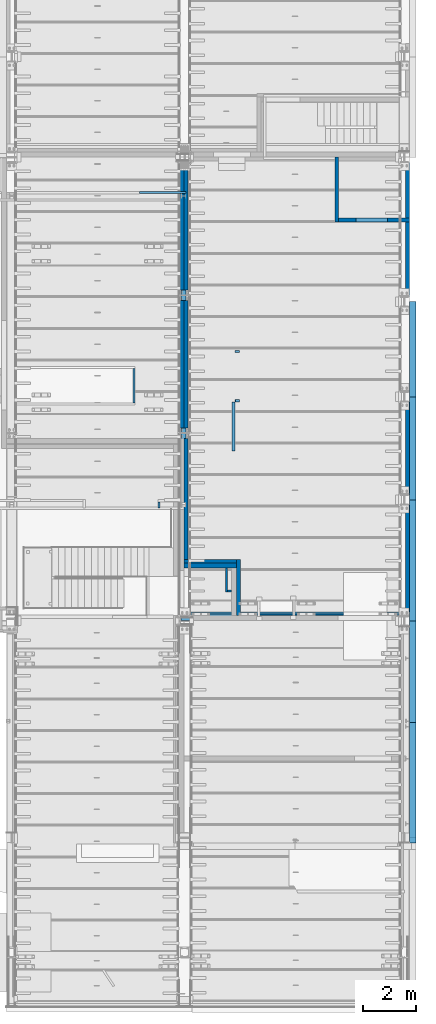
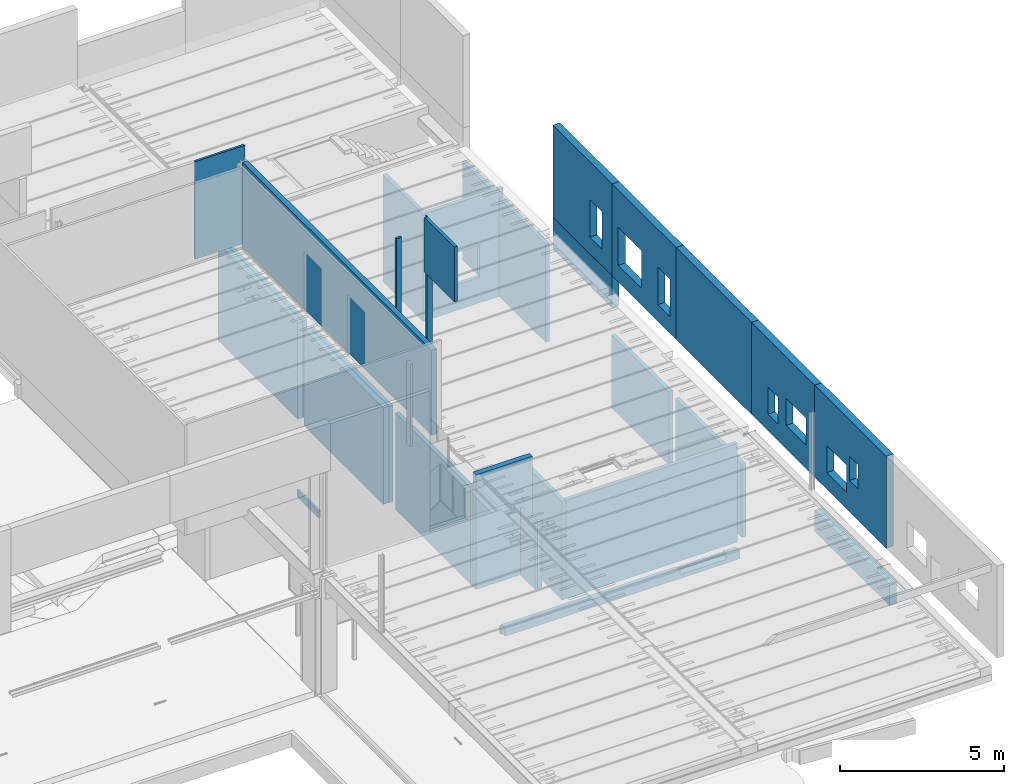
# One storey, part 69 of 230: 33 walls, 8 openings.
"""IFC4X3_ADD2 building model written with IfcOpenShell, lengths in millimetres."""

from ifc_helpers import new_model, si_unit, direction, frame, frame_2d, origin_with_axes, place, context, subcontext, project, spatial, polyline, rectangle, outline, extrude, clip, bounded_halfspace, material, layer, layer_set, type_object, element, save


model = new_model("IFC4X3_ADD2")

# Units and contexts
model_context = context("Model", 3, precision=1e-05, world=origin_with_axes(), true_north=direction((0.0, 1.0)))
body_context = subcontext(model_context, "Body", "Model", "MODEL_VIEW")
ifc_project = project(units=[si_unit("LENGTHUNIT", "METRE", prefix="MILLI"), si_unit("AREAUNIT", "SQUARE_METRE"), si_unit("VOLUMEUNIT", "CUBIC_METRE"), si_unit("PLANEANGLEUNIT", "RADIAN"), si_unit("TIMEUNIT", "SECOND"), si_unit("MASSUNIT", "GRAM")], contexts=[model_context])

# Site, building, storey
site_placement = place(None, origin_with_axes())
site = spatial("IfcSite", under=ifc_project, at=site_placement, Name="Site", CompositionType="ELEMENT")
building_placement = place(site_placement, origin_with_axes())
building = spatial("IfcBuilding", under=site, at=building_placement, Name="IFC Building Story")
storey_placement = place(building_placement, origin_with_axes())
storey = spatial("IfcBuildingStorey", under=building, at=storey_placement, Name="ETAGE 00 (0)", Elevation=0.0)

# Wall
ifc_material_1 = material(Name="BS_28_Ossature en béton armé - Eléments préfabriqués(panneau façade)")
ifc_layer_1 = layer(ifc_material_1, 90.0)
ifc_material_2 = material(Name="BS_21_Isolation des murs extérieurs")
ifc_layer_2 = layer(ifc_material_2, 100.0)
ifc_layer_3 = layer(ifc_material_1, 60.0)
ifc_layer_set_1 = layer_set([ifc_layer_1, ifc_layer_2, ifc_layer_3], Name="Mur de base:BS_21_WA_BTpréfab90-ISO100-BTlissépréfab60")
wall_type_1 = type_object("IfcWallType", Name="Mur de base:BS_21_WA_BTpréfab90-ISO100-BTlissépréfab60 250", PredefinedType="NOTDEFINED", material=ifc_layer_set_1)
wall_1_placement = place(storey_placement, origin_with_axes())
element("IfcWall", 1, at=wall_1_placement, inside=storey, type_object=wall_type_1, Name="Mur de base:BS_21_WA_BTpréfab90-ISO100-BTlissépréfab60", ObjectType="Mur de base:BS_21_WA_BTpréfab90-ISO100-BTlissépréfab60", context=body_context, shape_type="SweptSolid", body=[
    extrude(rectangle(XDim=3609.99999999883, YDim=250.0, at=frame_2d((0.0, 5.95523630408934e-12), x_axis=(0.0, 1.0))), frame((48626.68947815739, 10515.00000000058, 3545.0), z_axis=(0.0, 0.0, 1.0), x_axis=(1.0, 0.0, 0.0)), (0.0, 0.0, 1.0), 1199.00000000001),
])

# Wall, opening
wall_2_placement = place(storey_placement, origin_with_axes())
wall_2 = element("IfcWall", 2, at=wall_2_placement, inside=storey, type_object=wall_type_1, Name="Mur de base:BS_21_WA_BTpréfab90-ISO100-BTlissépréfab60", ObjectType="Mur de base:BS_21_WA_BTpréfab90-ISO100-BTlissépréfab60", context=body_context, shape_type="SweptSolid", body=[
    extrude(rectangle(XDim=3609.999999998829, YDim=250.0000000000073, at=frame_2d((0.0, 5.95523630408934e-12), x_axis=(0.0, 1.0))), frame((48626.68947815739, 10515.00000000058, 4745.00000000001), z_axis=(0.0, 0.0, 1.0), x_axis=(1.0, 0.0, 0.0)), (0.0, 0.0, 1.0), 3429.99999999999),
])
opening_1_placement = place(wall_2_placement, frame((48501.68947815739, 9688.99999987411, 6069.999999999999), z_axis=(1.0, 0.0, 0.0), x_axis=(0.0, -1.0, 0.0)))
element("IfcOpeningElement", 3, at=opening_1_placement, cuts=wall_2, ObjectType="Opening", context=body_context, shape_type="SweptSolid", body=[
    extrude(outline(polyline([(375.0000000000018, -225.0), (-375.0000000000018, -225.0), (-375.0000000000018, 224.9999999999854), (375.0, 224.9999999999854), (375.0000000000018, -225.0)])), frame((0.0, -700.0, 24.99999999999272), z_axis=(0.0, 1.0, 0.0), x_axis=(1.0, 0.0, 0.0)), (0.0, 0.0, 1.0), 1400.0),
])

# Wall, openings
wall_3_placement = place(storey_placement, origin_with_axes())
wall_3 = element("IfcWall", 4, at=wall_3_placement, inside=storey, type_object=wall_type_1, Name="Mur de base:BS_21_WA_BTpréfab90-ISO100-BTlissépréfab60", ObjectType="Mur de base:BS_21_WA_BTpréfab90-ISO100-BTlissépréfab60", context=body_context, shape_type="SweptSolid", body=[
    extrude(rectangle(XDim=3910.58017330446, YDim=250.0000000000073, at=frame_2d((0.0, 5.95523630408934e-12), x_axis=(0.0, 1.0))), frame((48626.68947815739, 6754.70991334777, 4745.0), z_axis=(0.0, 0.0, 1.0), x_axis=(1.0, 0.0, 0.0)), (0.0, 0.0, 1.0), 3430.0),
])
opening_2_placement = place(wall_3_placement, frame((48501.68947815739, 7618.999999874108, 6070.0), z_axis=(1.0, 0.0, 0.0), x_axis=(0.0, -1.0, 0.0)))
element("IfcOpeningElement", 5, at=opening_2_placement, cuts=wall_3, ObjectType="Opening", context=body_context, shape_type="SweptSolid", body=[
    extrude(outline(polyline([(715.0, -225.0), (-715.0, -225.0), (-715.0, 224.9999999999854), (715.0, 224.9999999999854), (715.0, -225.0)])), frame((0.0, -700.0, 24.99999999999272), z_axis=(0.0, 1.0, 0.0), x_axis=(1.0, 0.0, 0.0)), (0.0, 0.0, 1.0), 1400.0),
])
opening_3_placement = place(wall_3_placement, frame((48501.68947815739, 5538.99999987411, 6070.0), z_axis=(1.0, 0.0, 0.0), x_axis=(0.0, -1.0, 0.0)))
element("IfcOpeningElement", 6, at=opening_3_placement, cuts=wall_3, ObjectType="Opening", context=body_context, shape_type="SweptSolid", body=[
    extrude(outline(polyline([(375.0000000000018, -225.0), (-375.0000000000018, -225.0), (-375.0000000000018, 224.9999999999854), (375.0, 224.9999999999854), (375.0000000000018, -225.0)])), frame((0.0, -700.0, 24.99999999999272), z_axis=(0.0, 1.0, 0.0), x_axis=(1.0, 0.0, 0.0)), (0.0, 0.0, 1.0), 1400.0),
])

wall_4_placement = place(storey_placement, origin_with_axes())
wall_4 = element("IfcWall", 7, at=wall_4_placement, inside=storey, type_object=wall_type_1, Name="Mur de base:BS_21_WA_BTpréfab90-ISO100-BTlissépréfab60", ObjectType="Mur de base:BS_21_WA_BTpréfab90-ISO100-BTlissépréfab60", context=body_context, shape_type="SweptSolid", body=[
    extrude(rectangle(XDim=3854.99991331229, YDim=250.0, at=frame_2d((0.0, 5.95523630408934e-12), x_axis=(0.0, 1.0))), frame((48626.68947815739, -1727.49995665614, 4745.0), z_axis=(0.0, 0.0, 1.0), x_axis=(1.0, 0.0, 0.0)), (0.0, 0.0, 1.0), 3430.0),
])
opening_4_placement = place(wall_4_placement, frame((48501.68947815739, -1105.00000012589, 5870.0), z_axis=(1.0, 0.0, 0.0), x_axis=(0.0, -1.0, 0.0)))
element("IfcOpeningElement", 8, at=opening_4_placement, cuts=wall_4, ObjectType="Opening", context=body_context, shape_type="SweptSolid", body=[
    extrude(outline(polyline([(300.0, -225.0), (-300.0, -225.0), (-300.0, 224.9999999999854), (300.0, 224.9999999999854), (300.0, -225.0)])), frame((0.0, -500.0, 24.99999999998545), z_axis=(0.0, 1.0, 0.0), x_axis=(1.0, 0.0, 0.0)), (0.0, 0.0, 1.0), 999.9999999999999),
])
opening_5_placement = place(wall_4_placement, frame((48501.68947815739, -2515.00000012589, 6119.999999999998), z_axis=(1.0, 0.0, 0.0), x_axis=(0.0, -1.0, 0.0)))
element("IfcOpeningElement", 9, at=opening_5_placement, cuts=wall_4, ObjectType="Opening", context=body_context, shape_type="SweptSolid", body=[
    extrude(outline(polyline([(600.0, -225.0), (-599.9999999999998, -225.0), (-599.9999999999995, 224.9999999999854), (600.0, 224.9999999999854), (600.0, -225.0)])), frame((0.0, -500.0, 24.99999999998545), z_axis=(0.0, 1.0, 0.0), x_axis=(1.0, 0.0, 0.0)), (0.0, 0.0, 1.0), 1000.0),
])

wall_5_placement = place(storey_placement, origin_with_axes())
wall_5 = element("IfcWall", 10, at=wall_5_placement, inside=storey, type_object=wall_type_1, Name="Mur de base:BS_21_WA_BTpréfab90-ISO100-BTlissépréfab60", ObjectType="Mur de base:BS_21_WA_BTpréfab90-ISO100-BTlissépréfab60", context=body_context, shape_type="SweptSolid", body=[
    extrude(rectangle(XDim=4375.000173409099, YDim=250.0, at=frame_2d((0.0, 5.95523630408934e-12), x_axis=(0.0, 1.0))), frame((48626.68947815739, -5842.50000001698, 4745.0), z_axis=(0.0, 0.0, 1.0), x_axis=(1.0, 0.0, 0.0)), (0.0, 0.0, 1.0), 3430.0),
])
opening_6_placement = place(wall_5_placement, frame((48501.68947815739, -5005.00000012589, 5870.0), z_axis=(1.0, 0.0, 0.0), x_axis=(0.0, -1.0, 0.0)))
element("IfcOpeningElement", 11, at=opening_6_placement, cuts=wall_5, ObjectType="Opening", context=body_context, shape_type="SweptSolid", body=[
    extrude(outline(polyline([(600.0, -225.0), (-599.9999999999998, -225.0), (-599.9999999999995, 224.9999999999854), (600.0, 224.9999999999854), (600.0, -225.0)])), frame((0.0, -500.0, 24.99999999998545), z_axis=(0.0, 1.0, 0.0), x_axis=(1.0, 0.0, 0.0)), (0.0, 0.0, 1.0), 999.9999999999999),
])
opening_7_placement = place(wall_5_placement, frame((48501.68947815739, -6040.0, 6370.0), z_axis=(1.0, 0.0, 0.0), x_axis=(0.0, -1.0, 0.0)))
element("IfcOpeningElement", 12, at=opening_7_placement, cuts=wall_5, ObjectType="Opening", context=body_context, shape_type="SweptSolid", body=[
    extrude(outline(polyline([(250.0000000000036, -225.0), (-250.0, -225.0), (-250.0, 224.9999999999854), (250.0000000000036, 224.9999999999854), (250.0000000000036, -225.0)])), frame((-1.818989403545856e-12, -450.0000000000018, 24.99999999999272), z_axis=(0.0, 1.0, 0.0), x_axis=(1.0, 0.0, 0.0)), (0.0, 0.0, 1.0), 900.0000000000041),
])

# Walls
wall_6_placement = place(storey_placement, origin_with_axes())
element("IfcWall", 13, at=wall_6_placement, inside=storey, type_object=wall_type_1, Name="Mur de base:BS_21_WA_BTpréfab90-ISO100-BTlissépréfab60", ObjectType="Mur de base:BS_21_WA_BTpréfab90-ISO100-BTlissépréfab60", context=body_context, shape_type="SweptSolid", body=[
    extrude(rectangle(XDim=4599.41982671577, YDim=249.9999999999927, at=frame_2d((0.0, 5.95523630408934e-12), x_axis=(0.0, 1.0))), frame((48626.6894781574, 2499.70991335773, 4745.0), z_axis=(0.0, 0.0, 1.0), x_axis=(1.0, 0.0, 0.0)), (0.0, 0.0, 1.0), 3430.0),
])
wall_7_placement = place(storey_placement, origin_with_axes())
element("IfcWall", 14, at=wall_7_placement, inside=storey, type_object=wall_type_1, Name="Mur de base:BS_21_WA_BTpréfab90-ISO100-BTlissépréfab60", ObjectType="Mur de base:BS_21_WA_BTpréfab90-ISO100-BTlissépréfab60", context=body_context, shape_type="SweptSolid", body=[
    extrude(rectangle(XDim=4575.000173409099, YDim=250.0000000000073, at=frame_2d((0.0, 5.95523630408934e-12), x_axis=(0.0, 1.0))), frame((48626.68947815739, -5942.50000001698, 2720.0), z_axis=(0.0, 0.0, 1.0), x_axis=(1.0, 0.0, 0.0)), (0.0, 0.0, 1.0), 804.249420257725),
])
ifc_material_3 = material(Name="BS_28_Ossature en béton armé - Eléments coulé sur place")
wall_type_2 = type_object("IfcWallType", Name="Mur de base:BS_28_WA_BTcoulé250", PredefinedType="NOTDEFINED", material=ifc_material_3)
wall_8_placement = place(storey_placement, origin_with_axes())
element("IfcWall", 15, at=wall_8_placement, inside=storey, type_object=wall_type_2, Name="Mur de base:BS_28_WA_BTcoulé250", ObjectType="Mur de base:BS_28_WA_BTcoulé250", context=body_context, shape_type="Clipping", body=[
    clip(extrude(outline(polyline([(-4137.499999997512, 125.0), (4137.499999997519, 125.0), (4137.499999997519, -125.0), (-4137.499999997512, -125.0), (-4137.499999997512, 125.0)])), frame((43964.18947815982, 335.000000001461, -500.0), z_axis=(0.0, 0.0, 1.0), x_axis=(1.0, 0.0, 0.0)), (0.0, 0.0, 1.0), 300.0), bounded_halfspace(frame((0.0, 0.0, -350.0), z_axis=(0.0, 0.0, 1.0), x_axis=(1.0, 0.0, 0.0)), False, frame((43964.18947815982, 335.000000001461, -500.0), z_axis=(0.0, 0.0, 1.0), x_axis=(1.0, 0.0, 0.0)), polyline([(3687.499999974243, 125.0), (2027.499999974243, 125.0), (2027.499999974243, -125.0), (3687.499999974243, -125.0), (3687.499999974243, 125.0)]))),
])
ifc_material_4 = material(Name="BS_13_Isolation sur sols XPS")
wall_type_3 = type_object("IfcWallType", Name="Mur de base:BS_13_WA_XPS80", PredefinedType="NOTDEFINED", material=ifc_material_4)
wall_9_placement = place(storey_placement, origin_with_axes())
element("IfcWall", 16, at=wall_9_placement, inside=storey, type_object=wall_type_3, Name="Mur de base:BS_13_WA_XPS80", ObjectType="Mur de base:BS_13_WA_XPS80", context=body_context, shape_type="SweptSolid", body=[
    extrude(rectangle(XDim=1299.937176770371, YDim=80.0, at=frame_2d((0.0, 5.95523630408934e-12), x_axis=(0.0, 1.0))), frame((38051.6894781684, 9130.000000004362, -455.5752092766), z_axis=(0.0, 0.0, 1.0), x_axis=(1.0, 0.0, 0.0)), (0.0, 0.0, 1.0), 255.5752092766),
])
wall_10_placement = place(storey_placement, origin_with_axes())
element("IfcWall", 17, at=wall_10_placement, inside=storey, type_object=wall_type_3, Name="Mur de base:BS_13_WA_XPS80", ObjectType="Mur de base:BS_13_WA_XPS80", context=body_context, shape_type="SweptSolid", body=[
    extrude(rectangle(XDim=8274.99999999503, YDim=79.99999999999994, at=frame_2d((0.0, 5.95523630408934e-12), x_axis=(1.0, 0.0))), frame((43964.18947815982, 500.0, -580.0), z_axis=(0.0, 0.0, 1.0), x_axis=(1.0, 0.0, 0.0)), (0.0, 0.0, 1.0), 300.0),
])
ifc_material_5 = material(Name="BS_22_Maçonnerie intérieure - Type4 -  en béton")
wall_type_4 = type_object("IfcWallType", Name="Mur de base:BS_22_WA_BBTlourd190", PredefinedType="NOTDEFINED", material=ifc_material_5)
wall_11_placement = place(storey_placement, origin_with_axes())
element("IfcWall", 18, at=wall_11_placement, inside=storey, type_object=wall_type_4, Name="Mur de base:BS_22_WA_BBTlourd190", ObjectType="Mur de base:BS_22_WA_BBTlourd190", context=body_context, shape_type="SweptSolid", body=[
    extrude(rectangle(XDim=4846.160346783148, YDim=189.9999999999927, at=frame_2d((0.0, 5.95523630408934e-12), x_axis=(0.0, 1.0))), frame((39856.6894781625, 15186.91982660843, 0.0), z_axis=(0.0, 0.0, 1.0), x_axis=(1.0, 0.0, 0.0)), (0.0, 0.0, 1.0), 3600.0),
])
wall_12_placement = place(storey_placement, origin_with_axes())
element("IfcWall", 19, at=wall_12_placement, inside=storey, type_object=wall_type_4, Name="Mur de base:BS_22_WA_BBTlourd190", ObjectType="Mur de base:BS_22_WA_BBTlourd190", context=body_context, shape_type="SweptSolid", body=[
    extrude(rectangle(XDim=4835.0, YDim=189.9999999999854, at=frame_2d((0.0, 5.95523630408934e-12), x_axis=(0.0, 1.0))), frame((39856.68947816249, 9946.3396532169, 0.0), z_axis=(0.0, 0.0, 1.0), x_axis=(1.0, 0.0, 0.0)), (0.0, 0.0, 1.0), 3600.0),
])
wall_13_placement = place(storey_placement, origin_with_axes())
element("IfcWall", 20, at=wall_13_placement, inside=storey, type_object=wall_type_4, Name="Mur de base:BS_22_WA_BBTlourd190", ObjectType="Mur de base:BS_22_WA_BBTlourd190", context=body_context, shape_type="SweptSolid", body=[
    extrude(rectangle(XDim=1989.999999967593, YDim=190.0, at=frame_2d((0.0, 5.95523630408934e-12), x_axis=(1.0, 0.0))), frame((40946.6894781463, 2294.99999998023, 0.0), z_axis=(0.0, 0.0, 1.0), x_axis=(1.0, 0.0, 0.0)), (0.0, 0.0, 1.0), 4270.0),
])
wall_14_placement = place(storey_placement, origin_with_axes())
element("IfcWall", 21, at=wall_14_placement, inside=storey, type_object=wall_type_4, Name="Mur de base:BS_22_WA_BBTlourd190", ObjectType="Mur de base:BS_22_WA_BBTlourd190", context=body_context, shape_type="SweptSolid", body=[
    extrude(rectangle(XDim=11545.660346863, YDim=190.0, at=frame_2d((0.0, 5.95523630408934e-12), x_axis=(0.0, 1.0))), frame((39924.1894781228, 10471.66982664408, 4270.0), z_axis=(0.0, 0.0, 1.0), x_axis=(1.0, 0.0, 0.0)), (0.0, 0.0, 1.0), 3170.0),
])
ifc_material_6 = material(Name="BS_42_Revêtement mural en plaques - type A (gyproc)")
ifc_layer_4 = layer(ifc_material_6, 12.5)
ifc_material_7 = material(Name="BS_42_Panneau OSB")
ifc_layer_5 = layer(ifc_material_7, 18.0)
ifc_material_8 = material(Name="BS_42_ContreCloison-Laine minérale")
ifc_layer_6 = layer(ifc_material_8, 75.0)
ifc_layer_7 = layer(ifc_material_7, 18.0)
ifc_layer_8 = layer(ifc_material_6, 12.5)
ifc_layer_set_2 = layer_set([ifc_layer_4, ifc_layer_5, ifc_layer_6, ifc_layer_7, ifc_layer_8], Name="Mur de base:BS_22_WA_C1")
wall_type_5 = type_object("IfcWallType", Name="Mur de base:BS_22_WA_C1 136", PredefinedType="NOTDEFINED", material=ifc_layer_set_2)
wall_15_placement = place(storey_placement, origin_with_axes())
element("IfcWall", 22, at=wall_15_placement, inside=storey, type_object=wall_type_5, Name="Mur de base:BS_22_WA_C1", ObjectType="Mur de base:BS_22_WA_C1", context=body_context, shape_type="SweptSolid", body=[
    extrude(rectangle(XDim=2455.499999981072, YDim=136.0, at=frame_2d((0.0, 5.95523630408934e-12), x_axis=(0.0, 1.0))), frame((45744.1894781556, 16582.25000000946, 0.0), z_axis=(0.0, 0.0, 1.0), x_axis=(1.0, 0.0, 0.0)), (0.0, 0.0, 1.0), 4000.0),
])

# Wall, opening
wall_16_placement = place(storey_placement, origin_with_axes())
wall_16 = element("IfcWall", 23, at=wall_16_placement, inside=storey, type_object=wall_type_5, Name="Mur de base:BS_22_WA_C1", ObjectType="Mur de base:BS_22_WA_C1", context=body_context, shape_type="SweptSolid", body=[
    extrude(rectangle(XDim=2689.500000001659, YDim=136.0, at=frame_2d((0.0, 5.95523630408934e-12), x_axis=(1.0, 0.0))), frame((47156.93947815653, 15422.5000000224, 0.0), z_axis=(0.0, 0.0, 1.0), x_axis=(1.0, 0.0, 0.0)), (0.0, 0.0, 1.0), 4000.0),
])
opening_8_placement = place(wall_16_placement, frame((47071.68947815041, 15490.5000000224, 1550.0), z_axis=(0.0, 1.0, 0.0), x_axis=(1.0, 0.0, 0.0)))
element("IfcOpeningElement", 24, at=opening_8_placement, cuts=wall_16, ObjectType="Opening", context=body_context, shape_type="SweptSolid", body=[
    extrude(outline(polyline([(600.0, -68.00000000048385), (-600.0, -68.00000000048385), (-600.0, 68.00000000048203), (600.0, 68.00000000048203), (600.0, -68.00000000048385)])), frame((0.0, -600.0, -67.9999999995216), z_axis=(0.0, 1.0, 0.0), x_axis=(1.0, 0.0, 0.0)), (0.0, 0.0, 1.0), 1200.0),
])

# Walls
ifc_layer_9 = layer(ifc_material_8, 37.5)
ifc_layer_10 = layer(ifc_material_8, 37.5)
ifc_layer_11 = layer(ifc_material_7, 18.0)
ifc_layer_12 = layer(ifc_material_6, 12.5)
ifc_layer_set_3 = layer_set([ifc_layer_9, ifc_layer_10, ifc_layer_11, ifc_layer_12], Name="Mur de base:BS_22_WA_CC3")
wall_type_6 = type_object("IfcWallType", Name="Mur de base:BS_22_WA_CC3 105.5", PredefinedType="NOTDEFINED", material=ifc_layer_set_3)
wall_17_placement = place(storey_placement, origin_with_axes())
element("IfcWall", 25, at=wall_17_placement, inside=storey, type_object=wall_type_6, Name="Mur de base:BS_22_WA_CC3", ObjectType="Mur de base:BS_22_WA_CC3", context=body_context, shape_type="Clipping", body=[
    clip(clip(extrude(outline(polyline([(92.24999999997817, -52.75), (-92.24999999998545, -52.75), (-92.24999999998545, 52.75), (92.24999999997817, 52.75), (92.24999999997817, -52.75)])), frame((41964.43947813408, 8562.75000000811, 4370.0), z_axis=(0.0, 0.0, 1.0), x_axis=(1.0, 0.0, 0.0)), (0.0, 0.0, 1.0), 5025.47407369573), bounded_halfspace(frame((0.0, 0.0, 7370.0), z_axis=(0.0, 0.0, 1.0), x_axis=(1.0, 0.0, 0.0)), False, frame((41964.43947813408, 8562.75000000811, 4370.0), z_axis=(0.0, 0.0, 1.0), x_axis=(1.0, 0.0, 0.0)), polyline([(92.24999999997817, 52.75), (-67.2499999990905, 52.75), (-67.2499999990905, -52.75), (92.24999999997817, -52.75), (92.24999999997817, 52.75)]))), bounded_halfspace(frame((0.0, 142.8147277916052, 9520.981852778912), z_axis=(0.0, 0.01499831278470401, 0.9998875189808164), x_axis=(1.0, 0.0, 0.0)), False, frame((41964.43947813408, 8562.75000000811, 4370.0), z_axis=(0.0, 0.0, 1.0), x_axis=(1.0, 0.0, 0.0)), polyline([(-92.24999999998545, -52.75), (-67.2499999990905, -52.75), (-67.2499999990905, 52.75), (-92.24999999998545, 52.75), (-92.24999999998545, -52.75)]))),
])
wall_18_placement = place(storey_placement, origin_with_axes())
element("IfcWall", 26, at=wall_18_placement, inside=storey, type_object=wall_type_6, Name="Mur de base:BS_22_WA_CC3", ObjectType="Mur de base:BS_22_WA_CC3", context=body_context, shape_type="Clipping", body=[
    clip(extrude(outline(polyline([(-52.75, 927.4999999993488), (52.75, 927.4999999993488), (52.75, -927.4999999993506), (-52.75, -927.4999999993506), (-52.75, 927.4999999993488)])), frame((41819.4394781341, 7582.500000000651, 7370.0), z_axis=(0.0, 0.0, 1.0), x_axis=(1.0, 0.0, 0.0)), (0.0, 0.0, 1.0), 2053.299073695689), bounded_halfspace(frame((0.0, 142.8147277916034, 9520.98185277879), z_axis=(0.0, 0.01499831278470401, 0.9998875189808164), x_axis=(1.0, 0.0, 0.0)), False, frame((41819.4394781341, 7582.500000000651, 7370.0), z_axis=(0.0, 0.0, 1.0), x_axis=(1.0, 0.0, 0.0)), polyline([(52.75, -927.4999999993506), (52.75, 927.4999999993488), (-52.75, 927.4999999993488), (-52.75, -927.4999999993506), (52.75, -927.4999999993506)]))),
])
ifc_layer_13 = layer(ifc_material_8, 25.0)
ifc_layer_14 = layer(ifc_material_8, 25.0)
ifc_layer_15 = layer(ifc_material_7, 18.0)
ifc_layer_16 = layer(ifc_material_6, 12.5)
ifc_layer_set_4 = layer_set([ifc_layer_13, ifc_layer_14, ifc_layer_15, ifc_layer_16], Name="Mur de base:BS_22_WA_CC2")
wall_type_7 = type_object("IfcWallType", Name="Mur de base:BS_22_WA_CC2 80.5", PredefinedType="NOTDEFINED", material=ifc_layer_set_4)
wall_19_placement = place(storey_placement, origin_with_axes())
element("IfcWall", 27, at=wall_19_placement, inside=storey, type_object=wall_type_7, Name="Mur de base:BS_22_WA_CC2", ObjectType="Mur de base:BS_22_WA_CC2", context=body_context, shape_type="SweptSolid", body=[
    extrude(rectangle(XDim=227.5000000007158, YDim=80.49999999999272, at=frame_2d((0.0, 5.95523630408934e-12), x_axis=(0.0, 1.0))), frame((38998.939478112, 4608.749999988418, 4270.0), z_axis=(0.0, 0.0, 1.0), x_axis=(1.0, 0.0, 0.0)), (0.0, 0.0, 1.0), 3060.0),
])
wall_20_placement = place(storey_placement, origin_with_axes())
element("IfcWall", 28, at=wall_20_placement, inside=storey, type_object=wall_type_7, Name="Mur de base:BS_22_WA_CC2", ObjectType="Mur de base:BS_22_WA_CC2", context=body_context, shape_type="SweptSolid", body=[
    extrude(rectangle(XDim=1757.499999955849, YDim=80.5, at=frame_2d((0.0, 5.95523630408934e-12), x_axis=(1.0, 0.0))), frame((39140.43947814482, 16461.2500000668, 4270.0), z_axis=(0.0, 0.0, 1.0), x_axis=(1.0, 0.0, 0.0)), (0.0, 0.0, 1.0), 3640.0),
])
ifc_layer_17 = layer(ifc_material_8, 50.0)
ifc_layer_18 = layer(ifc_material_7, 18.0)
ifc_material_9 = material(Name="BS_42_Revêtement mural en plaques - type WR (gyproc)")
ifc_layer_19 = layer(ifc_material_9, 12.5)
ifc_layer_set_5 = layer_set([ifc_layer_17, ifc_layer_18, ifc_layer_19], Name="Mur de base:BS_22_WA_CC7")
wall_type_8 = type_object("IfcWallType", Name="Mur de base:BS_22_WA_CC7 80.5", PredefinedType="NOTDEFINED", material=ifc_layer_set_5)
wall_21_placement = place(storey_placement, origin_with_axes())
element("IfcWall", 29, at=wall_21_placement, inside=storey, type_object=wall_type_8, Name="Mur de base:BS_22_WA_CC7", ObjectType="Mur de base:BS_22_WA_CC7", context=body_context, shape_type="SweptSolid", body=[
    extrude(rectangle(XDim=184.9999999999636, YDim=80.5, at=frame_2d((0.0, 5.95523630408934e-12), x_axis=(1.0, 0.0))), frame((41964.18947813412, 10425.2500000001, 4370.0), z_axis=(0.0, 0.0, 1.0), x_axis=(1.0, 0.0, 0.0)), (0.0, 0.0, 1.0), 3060.0),
])
wall_22_placement = place(storey_placement, origin_with_axes())
element("IfcWall", 30, at=wall_22_placement, inside=storey, type_object=wall_type_8, Name="Mur de base:BS_22_WA_CC7", ObjectType="Mur de base:BS_22_WA_CC7", context=body_context, shape_type="SweptSolid", body=[
    extrude(rectangle(XDim=900.0, YDim=80.50000000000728, at=frame_2d((0.0, 5.95523630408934e-12), x_axis=(0.0, 1.0))), frame((41551.93947813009, 1750.0, 0.0), z_axis=(0.0, 0.0, 1.0), x_axis=(1.0, 0.0, 0.0)), (0.0, 0.0, 1.0), 2500.0),
])
wall_23_placement = place(storey_placement, origin_with_axes())
element("IfcWall", 31, at=wall_23_placement, inside=storey, type_object=wall_type_8, Name="Mur de base:BS_22_WA_CC7", ObjectType="Mur de base:BS_22_WA_CC7", context=body_context, shape_type="SweptSolid", body=[
    extrude(rectangle(XDim=159.5, YDim=80.5, at=frame_2d((0.0, 5.95523630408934e-12), x_axis=(1.0, 0.0))), frame((41671.9394781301, 1340.24999998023, 0.0), z_axis=(0.0, 0.0, 1.0), x_axis=(1.0, 0.0, 0.0)), (0.0, 0.0, 1.0), 2500.0),
])
ifc_material_10 = material(Name="BS_00_Vide d'air")
ifc_layer_20 = layer(ifc_material_10, 10.0)
ifc_layer_21 = layer(ifc_material_8, 100.0)
ifc_layer_22 = layer(ifc_material_7, 18.0)
ifc_layer_23 = layer(ifc_material_6, 12.5)
ifc_layer_set_6 = layer_set([ifc_layer_20, ifc_layer_21, ifc_layer_22, ifc_layer_23], Name="Mur de base:BS_22_WA_ContreCloison acoustique")
wall_type_9 = type_object("IfcWallType", Name="Mur de base:BS_22_WA_ContreCloison acoustique 140.5", PredefinedType="NOTDEFINED", material=ifc_layer_set_6)
wall_24_placement = place(storey_placement, origin_with_axes())
element("IfcWall", 32, at=wall_24_placement, inside=storey, type_object=wall_type_9, Name="Mur de base:BS_22_WA_ContreCloison acoustique", ObjectType="Mur de base:BS_22_WA_ContreCloison acoustique", context=body_context, shape_type="SweptSolid", body=[
    extrude(rectangle(XDim=4850.162, YDim=140.4999999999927, at=frame_2d((0.0, 5.95523630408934e-12), x_axis=(0.0, 1.0))), frame((40021.93947816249, 15184.919, 0.0), z_axis=(0.0, 0.0, 1.0), x_axis=(1.0, 0.0, 0.0)), (0.0, 0.0, 1.0), 3600.0),
])
wall_25_placement = place(storey_placement, origin_with_axes())
element("IfcWall", 33, at=wall_25_placement, inside=storey, type_object=wall_type_9, Name="Mur de base:BS_22_WA_ContreCloison acoustique", ObjectType="Mur de base:BS_22_WA_ContreCloison acoustique", context=body_context, shape_type="SweptSolid", body=[
    extrude(rectangle(XDim=4850.0, YDim=140.4999999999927, at=frame_2d((0.0, 5.95523630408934e-12), x_axis=(0.0, 1.0))), frame((40021.9394781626, 9944.838, 0.0), z_axis=(0.0, 0.0, 1.0), x_axis=(1.0, 0.0, 0.0)), (0.0, 0.0, 1.0), 3600.0),
])
wall_26_placement = place(storey_placement, origin_with_axes())
element("IfcWall", 34, at=wall_26_placement, inside=storey, type_object=wall_type_9, Name="Mur de base:BS_22_WA_ContreCloison acoustique", ObjectType="Mur de base:BS_22_WA_ContreCloison acoustique", context=body_context, shape_type="SweptSolid", body=[
    extrude(rectangle(XDim=2130.49999997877, YDim=140.4999999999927, at=frame_2d((0.0, 5.95523630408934e-12), x_axis=(0.0, 1.0))), frame((42011.93947813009, 1465.24999998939, 0.0), z_axis=(0.0, 0.0, 1.0), x_axis=(1.0, 0.0, 0.0)), (0.0, 0.0, 1.0), 3675.0),
])
wall_27_placement = place(storey_placement, origin_with_axes())
element("IfcWall", 35, at=wall_27_placement, inside=storey, type_object=wall_type_9, Name="Mur de base:BS_22_WA_ContreCloison acoustique", ObjectType="Mur de base:BS_22_WA_ContreCloison acoustique", context=body_context, shape_type="SweptSolid", body=[
    extrude(rectangle(XDim=1989.999999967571, YDim=140.5, at=frame_2d((0.0, 5.95523630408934e-12), x_axis=(1.0, 0.0))), frame((40946.68947814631, 2460.24999998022, 0.0), z_axis=(0.0, 0.0, 1.0), x_axis=(1.0, 0.0, 0.0)), (0.0, 0.0, 1.0), 3675.0),
])
wall_28_placement = place(storey_placement, origin_with_axes())
element("IfcWall", 36, at=wall_28_placement, inside=storey, type_object=wall_type_9, Name="Mur de base:BS_22_WA_ContreCloison acoustique", ObjectType="Mur de base:BS_22_WA_ContreCloison acoustique", context=body_context, shape_type="SweptSolid", body=[
    extrude(rectangle(XDim=4599.33800001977, YDim=140.5, at=frame_2d((0.0, 5.95523630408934e-12), x_axis=(0.0, 1.0))), frame((40021.9394781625, 4830.16899999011, 0.0), z_axis=(0.0, 0.0, 1.0), x_axis=(1.0, 0.0, 0.0)), (0.0, 0.0, 1.0), 3600.0),
])
wall_29_placement = place(storey_placement, origin_with_axes())
element("IfcWall", 37, at=wall_29_placement, inside=storey, type_object=wall_type_9, Name="Mur de base:BS_22_WA_ContreCloison acoustique", ObjectType="Mur de base:BS_22_WA_ContreCloison acoustique", context=body_context, shape_type="SweptSolid", body=[
    extrude(rectangle(XDim=6048.998521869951, YDim=140.5, at=frame_2d((0.0, 5.95523630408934e-12), x_axis=(1.0, 0.0))), frame((45106.68873906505, 470.250000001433, 0.0), z_axis=(0.0, 0.0, 1.0), x_axis=(1.0, 0.0, 0.0)), (0.0, 0.0, 1.0), 3675.0),
])
wall_30_placement = place(storey_placement, origin_with_axes())
element("IfcWall", 38, at=wall_30_placement, inside=storey, type_object=wall_type_9, Name="Mur de base:BS_22_WA_ContreCloison acoustique", ObjectType="Mur de base:BS_22_WA_ContreCloison acoustique", context=body_context, shape_type="SweptSolid", body=[
    extrude(rectangle(XDim=2839.4993891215, YDim=140.5, at=frame_2d((0.0, 5.95523630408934e-12), x_axis=(0.0, 1.0))), frame((48431.4394781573, 13934.75030546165, 0.0), z_axis=(0.0, 0.0, 1.0), x_axis=(1.0, 0.0, 0.0)), (0.0, 0.0, 1.0), 3675.0),
])
wall_31_placement = place(storey_placement, origin_with_axes())
element("IfcWall", 39, at=wall_31_placement, inside=storey, type_object=wall_type_9, Name="Mur de base:BS_22_WA_ContreCloison acoustique", ObjectType="Mur de base:BS_22_WA_ContreCloison acoustique", context=body_context, shape_type="SweptSolid", body=[
    extrude(rectangle(XDim=3520.0, YDim=140.4999999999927, at=frame_2d((0.0, 5.95523630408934e-12), x_axis=(0.0, 1.0))), frame((48431.4394781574, 6755.000610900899, 0.0), z_axis=(0.0, 0.0, 1.0), x_axis=(1.0, 0.0, 0.0)), (0.0, 0.0, 1.0), 2720.0),
])
wall_32_placement = place(storey_placement, origin_with_axes())
element("IfcWall", 40, at=wall_32_placement, inside=storey, type_object=wall_type_9, Name="Mur de base:BS_22_WA_ContreCloison acoustique", ObjectType="Mur de base:BS_22_WA_ContreCloison acoustique", context=body_context, shape_type="SweptSolid", body=[
    extrude(rectangle(XDim=4064.50061089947, YDim=140.4999999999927, at=frame_2d((0.0, 5.95523630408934e-12), x_axis=(0.0, 1.0))), frame((48431.4394781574, 2572.75030545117, 0.0), z_axis=(0.0, 0.0, 1.0), x_axis=(1.0, 0.0, 0.0)), (0.0, 0.0, 1.0), 2720.0),
])
wall_33_placement = place(storey_placement, origin_with_axes())
element("IfcWall", 41, at=wall_33_placement, inside=storey, type_object=wall_type_9, Name="Mur de base:BS_22_WA_ContreCloison acoustique", ObjectType="Mur de base:BS_22_WA_ContreCloison acoustique", context=body_context, shape_type="SweptSolid", body=[
    extrude(rectangle(XDim=2119.499610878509, YDim=140.5, at=frame_2d((0.0, 5.95523630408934e-12), x_axis=(0.0, 1.0))), frame((48431.43947815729, 16550.24980546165, 0.0), z_axis=(0.0, 0.0, 1.0), x_axis=(1.0, 0.0, 0.0)), (0.0, 0.0, 1.0), 3675.0),
])

save(model, "model.ifc")
